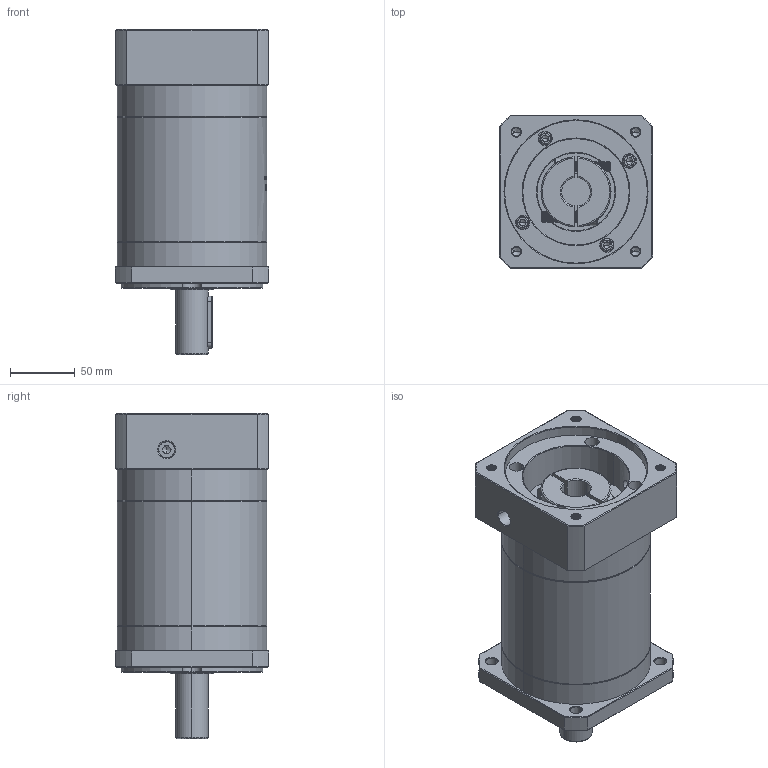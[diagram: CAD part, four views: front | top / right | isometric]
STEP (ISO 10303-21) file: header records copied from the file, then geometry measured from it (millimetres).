
FILE_DESCRIPTION (( 'STEP AP214' ), '1' );
FILE_NAME ('ZF120A-D25-L3-22-110-130-M8.step', '2023-03-07T09:31:00', ( '' ), ( '' ), 'SwSTEP 2.0', 'SolidWorks 2016', '' );
FILE_SCHEMA (( 'AUTOMOTIVE_DESIGN' ));
Length unit declared in the file: millimetre
Products named in the file (1): ZF120A-D25-L3-22-110-130-M8
Bounding box: 118 x 118 x 250.5 mm (x, y, z)
Volume: 2034977.1 mm3; surface area: 186177.3 mm2
Topology: 6 solids, 6 shells, 1960 faces, 5154 edges, 3292 vertices
Faces by surface type: plane 857, cylinder 422, bspline 341, cone 340
Entity records: 107477 total; most frequent: CARTESIAN_POINT 41363, ORIENTED_EDGE 10248, DIRECTION 7947, EDGE_CURVE 5124, VERTEX_POINT 3292, VECTOR 2759, LINE 2759, AXIS2_PLACEMENT_3D 2594
